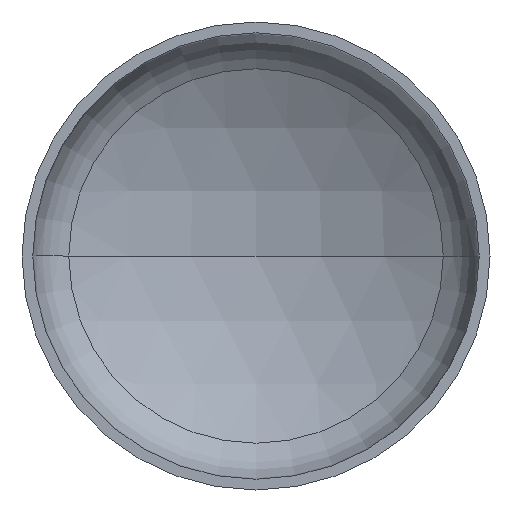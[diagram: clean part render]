
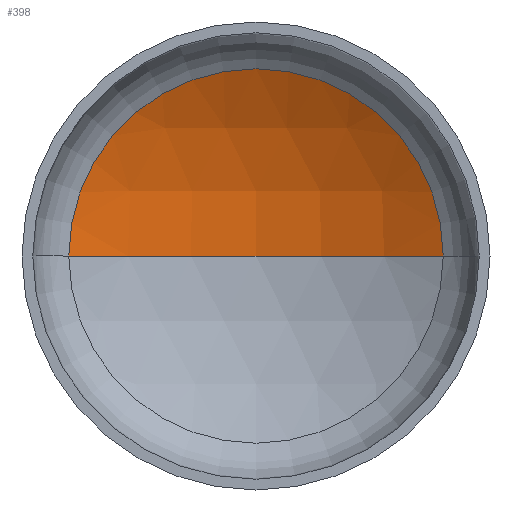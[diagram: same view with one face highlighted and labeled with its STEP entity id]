
A CAD part, front view. The second image highlights one B-rep face of the part: STEP entity #398.
In plain terms, the highlighted spherical face has radius 1040 mm.
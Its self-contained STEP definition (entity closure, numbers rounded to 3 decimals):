
#8 = AXIS2_PLACEMENT_3D ( 'NONE', #280, #116, #117 ) ;
#17 = VERTEX_POINT ( 'NONE', #215 ) ;
#31 = DIRECTION ( 'NONE',  ( -1., 0., 0. ) ) ;
#32 = AXIS2_PLACEMENT_3D ( 'NONE', #148, #149, #224 ) ;
#33 = AXIS2_PLACEMENT_3D ( 'NONE', #171, #161, #159 ) ;
#61 = EDGE_CURVE ( 'NONE', #301, #189, #274, .T. ) ;
#62 = EDGE_CURVE ( 'NONE', #17, #301, #195, .T. ) ;
#91 = EDGE_LOOP ( 'NONE', ( #382, #239, #115 ) ) ;
#109 = DIRECTION ( 'NONE',  ( 0., 0., -1. ) ) ;
#115 = ORIENTED_EDGE ( 'NONE', *, *, #61, .T. ) ;
#116 = DIRECTION ( 'NONE',  ( 0., 0., 1. ) ) ;
#117 = DIRECTION ( 'NONE',  ( 1., 0., 0. ) ) ;
#121 = FACE_OUTER_BOUND ( 'NONE', #91, .T. ) ;
#125 = CARTESIAN_POINT ( 'NONE',  ( 520., 263.205, 0. ) ) ;
#148 = CARTESIAN_POINT ( 'NONE',  ( 0., -637.461, 0. ) ) ;
#149 = DIRECTION ( 'NONE',  ( 0., 0., -1. ) ) ;
#159 = DIRECTION ( 'NONE',  ( 1., 0., 0. ) ) ;
#161 = DIRECTION ( 'NONE',  ( 0., -1., 0. ) ) ;
#164 = CARTESIAN_POINT ( 'NONE',  ( -520., 263.205, 0. ) ) ;
#171 = CARTESIAN_POINT ( 'NONE',  ( 0., 263.205, 0. ) ) ;
#189 = VERTEX_POINT ( 'NONE', #164 ) ;
#195 = CIRCLE ( 'NONE', #32, 1040. ) ;
#210 = SPHERICAL_SURFACE ( 'NONE', #326, 1040. ) ;
#215 = CARTESIAN_POINT ( 'NONE',  ( 0., 402.539, 0. ) ) ;
#220 = CIRCLE ( 'NONE', #8, 1040. ) ;
#224 = DIRECTION ( 'NONE',  ( -1., 0., 0. ) ) ;
#239 = ORIENTED_EDGE ( 'NONE', *, *, #62, .T. ) ;
#274 = CIRCLE ( 'NONE', #33, 520. ) ;
#280 = CARTESIAN_POINT ( 'NONE',  ( 0., -637.461, 0. ) ) ;
#290 = CARTESIAN_POINT ( 'NONE',  ( 0., -637.461, 0. ) ) ;
#301 = VERTEX_POINT ( 'NONE', #125 ) ;
#326 = AXIS2_PLACEMENT_3D ( 'NONE', #290, #109, #31 ) ;
#330 = EDGE_CURVE ( 'NONE', #17, #189, #220, .T. ) ;
#382 = ORIENTED_EDGE ( 'NONE', *, *, #330, .F. ) ;
#398 = ADVANCED_FACE ( 'NONE', ( #121 ), #210, .F. ) ;
